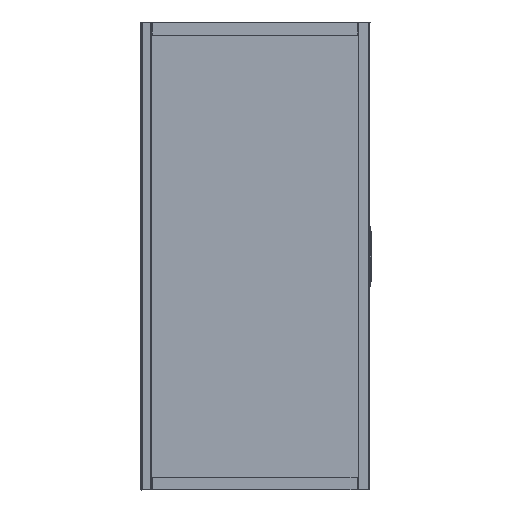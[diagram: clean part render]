
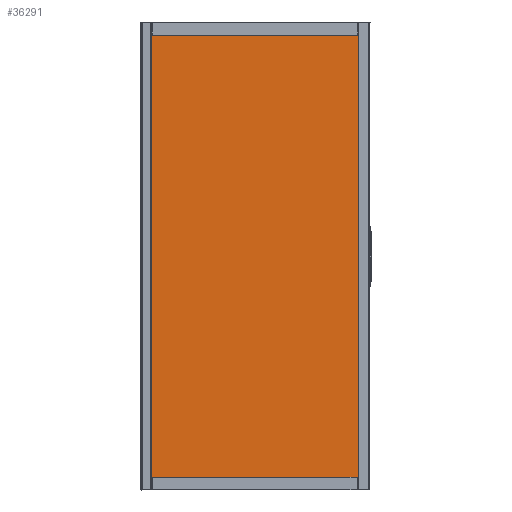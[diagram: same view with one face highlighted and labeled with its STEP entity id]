
A CAD part, front view. The second image highlights one B-rep face of the part: STEP entity #36291.
In plain terms, the highlighted planar face has unit normal (0, -1, 0).
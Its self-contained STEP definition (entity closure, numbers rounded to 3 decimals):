
#1799=LINE($,#54927,#5004);
#2004=LINE($,#55556,#5209);
#2010=LINE($,#55573,#5215);
#2037=LINE($,#55640,#5242);
#2054=LINE($,#55676,#5259);
#2056=LINE($,#55680,#5261);
#2097=LINE($,#55765,#5302);
#2397=LINE($,#56730,#5602);
#2403=LINE($,#56747,#5608);
#2433=LINE($,#56818,#5638);
#2444=LINE($,#56844,#5649);
#2448=LINE($,#56852,#5653);
#2452=LINE($,#56859,#5657);
#2461=LINE($,#56874,#5666);
#2462=LINE($,#56877,#5667);
#2465=LINE($,#56882,#5670);
#2466=LINE($,#56884,#5671);
#2467=LINE($,#56885,#5672);
#2468=LINE($,#56887,#5673);
#2469=LINE($,#56888,#5674);
#2470=LINE($,#56889,#5675);
#5004=VECTOR($,#44122,1908.);
#5209=VECTOR($,#44595,880.);
#5215=VECTOR($,#44609,0.446);
#5242=VECTOR($,#44670,880.);
#5259=VECTOR($,#44709,0.446);
#5261=VECTOR($,#44711,7.);
#5302=VECTOR($,#44784,1907.);
#5602=VECTOR($,#45678,880.);
#5608=VECTOR($,#45692,0.446);
#5638=VECTOR($,#45756,880.);
#5649=VECTOR($,#45785,884.);
#5653=VECTOR($,#45791,7.85);
#5657=VECTOR($,#45797,8.15);
#5666=VECTOR($,#45810,8.15);
#5667=VECTOR($,#45813,1.);
#5670=VECTOR($,#45818,7.85);
#5671=VECTOR($,#45821,0.446);
#5672=VECTOR($,#45822,7.);
#5673=VECTOR($,#45823,884.);
#5674=VECTOR($,#45824,7.);
#5675=VECTOR($,#45825,7.);
#7638=PLANE($,#38970);
#8903=FACE_BOUND($,#11945,.T.);
#8904=FACE_BOUND($,#11946,.T.);
#8905=FACE_BOUND($,#11947,.T.);
#11945=EDGE_LOOP($,(#27803,#27804,#27805,#27806));
#11946=EDGE_LOOP($,(#27807,#27808,#27809,#27810));
#11947=EDGE_LOOP($,(#27811,#27812,#27813,#27814,#27815,#27816,#27817,#27818,
#27819,#27820,#27821,#27822,#27823));
#15861=VERTEX_POINT($,#54925);
#15862=VERTEX_POINT($,#54926);
#16065=VERTEX_POINT($,#55554);
#16066=VERTEX_POINT($,#55555);
#16073=VERTEX_POINT($,#55572);
#16096=VERTEX_POINT($,#55639);
#16105=VERTEX_POINT($,#55677);
#16106=VERTEX_POINT($,#55679);
#16133=VERTEX_POINT($,#55763);
#16134=VERTEX_POINT($,#55764);
#16415=VERTEX_POINT($,#56728);
#16416=VERTEX_POINT($,#56729);
#16423=VERTEX_POINT($,#56746);
#16447=VERTEX_POINT($,#56817);
#16452=VERTEX_POINT($,#56841);
#16453=VERTEX_POINT($,#56843);
#16455=VERTEX_POINT($,#56849);
#16458=VERTEX_POINT($,#56856);
#16463=VERTEX_POINT($,#56876);
#16464=VERTEX_POINT($,#56880);
#16465=VERTEX_POINT($,#56886);
#19696=EDGE_CURVE($,#15861,#15862,#1799,.T.);
#19969=EDGE_CURVE($,#16065,#16066,#2004,.T.);
#19977=EDGE_CURVE($,#16066,#16073,#2010,.T.);
#20011=EDGE_CURVE($,#16073,#16096,#2037,.T.);
#20031=EDGE_CURVE($,#16096,#16065,#2054,.T.);
#20033=EDGE_CURVE($,#16105,#16106,#2056,.T.);
#20077=EDGE_CURVE($,#16133,#16134,#2097,.T.);
#20529=EDGE_CURVE($,#16415,#16416,#2397,.T.);
#20537=EDGE_CURVE($,#16423,#16415,#2403,.T.);
#20574=EDGE_CURVE($,#16447,#16423,#2433,.T.);
#20587=EDGE_CURVE($,#16452,#16453,#2444,.T.);
#20591=EDGE_CURVE($,#16134,#16455,#2448,.T.);
#20595=EDGE_CURVE($,#16458,#15861,#2452,.T.);
#20604=EDGE_CURVE($,#15862,#16106,#2461,.T.);
#20605=EDGE_CURVE($,#16463,#16133,#2462,.T.);
#20608=EDGE_CURVE($,#16464,#16463,#2465,.T.);
#20609=EDGE_CURVE($,#16416,#16447,#2466,.T.);
#20610=EDGE_CURVE($,#16458,#16452,#2467,.T.);
#20611=EDGE_CURVE($,#16465,#16105,#2468,.T.);
#20612=EDGE_CURVE($,#16464,#16465,#2469,.T.);
#20613=EDGE_CURVE($,#16453,#16455,#2470,.T.);
#27803=ORIENTED_EDGE($,*,*,#19969,.T.);
#27804=ORIENTED_EDGE($,*,*,#19977,.T.);
#27805=ORIENTED_EDGE($,*,*,#20011,.T.);
#27806=ORIENTED_EDGE($,*,*,#20031,.T.);
#27807=ORIENTED_EDGE($,*,*,#20529,.T.);
#27808=ORIENTED_EDGE($,*,*,#20609,.T.);
#27809=ORIENTED_EDGE($,*,*,#20574,.T.);
#27810=ORIENTED_EDGE($,*,*,#20537,.T.);
#27811=ORIENTED_EDGE($,*,*,#20610,.F.);
#27812=ORIENTED_EDGE($,*,*,#20595,.T.);
#27813=ORIENTED_EDGE($,*,*,#19696,.T.);
#27814=ORIENTED_EDGE($,*,*,#20604,.T.);
#27815=ORIENTED_EDGE($,*,*,#20033,.F.);
#27816=ORIENTED_EDGE($,*,*,#20611,.F.);
#27817=ORIENTED_EDGE($,*,*,#20612,.F.);
#27818=ORIENTED_EDGE($,*,*,#20608,.T.);
#27819=ORIENTED_EDGE($,*,*,#20605,.T.);
#27820=ORIENTED_EDGE($,*,*,#20077,.T.);
#27821=ORIENTED_EDGE($,*,*,#20591,.T.);
#27822=ORIENTED_EDGE($,*,*,#20613,.F.);
#27823=ORIENTED_EDGE($,*,*,#20587,.F.);
#36291=ADVANCED_FACE($,(#8903,#8904,#8905),#7638,.T.);
#38970=AXIS2_PLACEMENT_3D($,#56883,#45819,#45820);
#44122=DIRECTION($,(0.,0.,-1.));
#44595=DIRECTION($,(1.,0.,0.));
#44609=DIRECTION($,(0.,0.,-1.));
#44670=DIRECTION($,(-1.,0.,0.));
#44709=DIRECTION($,(0.,0.,1.));
#44711=DIRECTION($,(0.,0.,-1.));
#44784=DIRECTION($,(0.,0.,1.));
#45678=DIRECTION($,(-1.,0.,0.));
#45692=DIRECTION($,(0.,0.,-1.));
#45756=DIRECTION($,(1.,0.,0.));
#45785=DIRECTION($,(1.,0.,0.));
#45791=DIRECTION($,(-1.,0.,0.));
#45797=DIRECTION($,(-1.,0.,0.));
#45810=DIRECTION($,(1.,0.,0.));
#45813=DIRECTION($,(0.,0.,1.));
#45818=DIRECTION($,(1.,0.,0.));
#45819=DIRECTION('center_axis',(0.,-1.,0.));
#45820=DIRECTION('ref_axis',(1.,0.,0.));
#45821=DIRECTION($,(0.,0.,1.));
#45822=DIRECTION($,(0.,0.,-1.));
#45823=DIRECTION($,(-1.,0.,0.));
#45824=DIRECTION($,(0.,0.,1.));
#45825=DIRECTION($,(0.,0.,1.));
#54925=CARTESIAN_POINT('',(-216.661,-798.159,2908.14));
#54926=CARTESIAN_POINT('',(-216.661,-798.159,1000.14));
#54927=CARTESIAN_POINT($,(-216.661,-798.159,2908.14));
#55554=CARTESIAN_POINT('',(-208.511,-798.159,1008.713));
#55555=CARTESIAN_POINT('',(671.489,-798.159,1008.713));
#55556=CARTESIAN_POINT($,(-208.511,-798.159,1008.713));
#55572=CARTESIAN_POINT('',(671.489,-798.159,1008.266));
#55573=CARTESIAN_POINT($,(671.489,-798.159,1717.023));
#55639=CARTESIAN_POINT('',(-208.511,-798.159,1008.266));
#55640=CARTESIAN_POINT($,(-208.511,-798.159,1008.266));
#55676=CARTESIAN_POINT($,(-208.511,-798.159,1717.023));
#55677=CARTESIAN_POINT('',(-208.511,-798.159,1007.14));
#55679=CARTESIAN_POINT('',(-208.511,-798.159,1000.14));
#55680=CARTESIAN_POINT($,(-208.511,-798.159,1706.465));
#55763=CARTESIAN_POINT('',(683.339,-798.159,1001.14));
#55764=CARTESIAN_POINT('',(683.339,-798.159,2908.14));
#55765=CARTESIAN_POINT($,(683.339,-798.159,1000.14));
#56728=CARTESIAN_POINT('',(671.489,-798.159,2899.567));
#56729=CARTESIAN_POINT('',(-208.511,-798.159,2899.567));
#56730=CARTESIAN_POINT($,(671.489,-798.159,2899.567));
#56746=CARTESIAN_POINT('',(671.489,-798.159,2900.013));
#56747=CARTESIAN_POINT($,(671.489,-798.159,2668.256));
#56817=CARTESIAN_POINT('',(-208.511,-798.159,2900.013));
#56818=CARTESIAN_POINT($,(671.489,-798.159,2900.013));
#56841=CARTESIAN_POINT('',(-208.511,-798.159,2901.14));
#56843=CARTESIAN_POINT('',(675.489,-798.159,2901.14));
#56844=CARTESIAN_POINT($,(-100.086,-798.159,2901.14));
#56849=CARTESIAN_POINT('',(675.489,-798.159,2908.14));
#56852=CARTESIAN_POINT($,(683.339,-798.159,2908.14));
#56856=CARTESIAN_POINT('',(-208.511,-798.159,2908.14));
#56859=CARTESIAN_POINT($,(683.339,-798.159,2908.14));
#56874=CARTESIAN_POINT($,(-216.661,-798.159,1000.14));
#56876=CARTESIAN_POINT('',(683.339,-798.159,1000.14));
#56877=CARTESIAN_POINT($,(683.339,-798.159,1000.14));
#56880=CARTESIAN_POINT('',(675.489,-798.159,1000.14));
#56882=CARTESIAN_POINT($,(-216.661,-798.159,1000.14));
#56883=CARTESIAN_POINT('Origin',(8.339,-798.159,2431.14));
#56884=CARTESIAN_POINT($,(-208.511,-798.159,2668.256));
#56885=CARTESIAN_POINT($,(-208.511,-798.159,2678.815));
#56886=CARTESIAN_POINT('',(675.489,-798.159,1007.14));
#56887=CARTESIAN_POINT($,(341.914,-798.159,1007.14));
#56888=CARTESIAN_POINT($,(675.489,-798.159,1706.465));
#56889=CARTESIAN_POINT($,(675.489,-798.159,2678.815));
